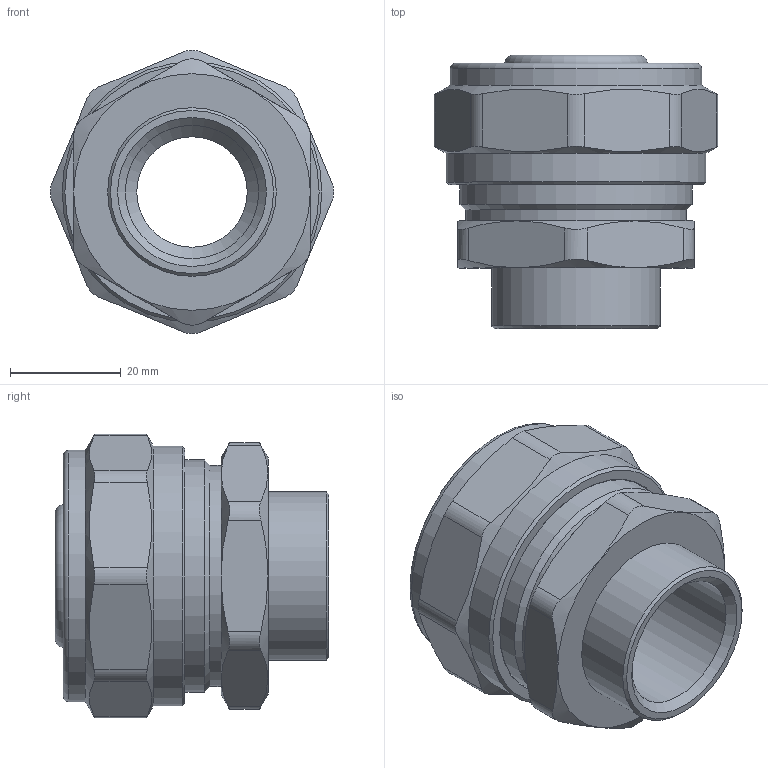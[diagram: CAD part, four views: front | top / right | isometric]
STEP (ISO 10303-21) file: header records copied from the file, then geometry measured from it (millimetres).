
FILE_DESCRIPTION(('STEP AP203'), '1');
FILE_NAME('VTm.302.N.003205', '', ('UNSPECIFIED'), ('UNSPECIFIED'), 'C3D Converter', 'C3D Toolkit', '');
FILE_SCHEMA(('CONFIG_CONTROL_DESIGN'));
Length unit declared in the file: millimetre
Products named in the file (1): ВР.302634.065.000 СБ
Bounding box: 51.3 x 49.5 x 51.3 mm (x, y, z)
Volume: 42086.5 mm3; surface area: 21856.8 mm2
Topology: 1 solids, 1 shells, 332 faces, 888 edges, 581 vertices
Faces by surface type: extrusion 129, plane 101, cylinder 45, torus 29, cone 28
Full cylindrical faces by diameter (mm): 20 x1, 22.8 x4, 24.118 x1, 25.8 x5, 26 x1, 30.5 x1, 32.1 x1, 32.2 x1, 32.7 x1, 40 x1, 40.376 x1, 42 x1, 45.5 x1, 47 x1
Entity records: 13000 total; most frequent: CARTESIAN_POINT 5579, ORIENTED_EDGE 1672, DIRECTION 1098, EDGE_CURVE 836, VERTEX_POINT 579, B_SPLINE_CURVE_WITH_KNOTS 495, VECTOR 464, EDGE_LOOP 403
